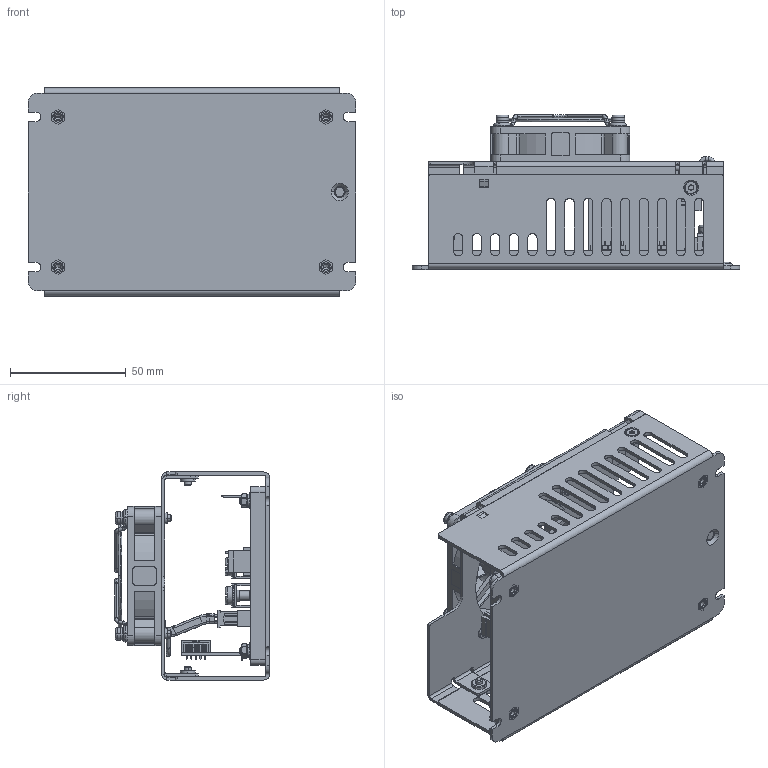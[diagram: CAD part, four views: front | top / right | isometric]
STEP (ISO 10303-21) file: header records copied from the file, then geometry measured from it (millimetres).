
FILE_DESCRIPTION (( 'STEP AP214' ), '1' );
FILE_NAME ('CUS-400M-xxVx-FXy.STEP', '2020-04-16T06:19:59', ( '' ), ( '' ), 'SwSTEP 2.0', 'SolidWorks 2019', '' );
FILE_SCHEMA (( 'AUTOMOTIVE_DESIGN' ));
Length unit declared in the file: millimetre
Products named in the file (40): 250296; 250237_28421; 12947; 283448; 200218; 250297; 22-04-1021; 220563SMA_SM Removed; 220563_Connectors Only; CUS-400M-xxVx-FXy; FLAT WASHERS_32087; SPLIT WASHERS_20035R; M3 PH TORX SEMS SCREW_20197R; 283717; M3 CLINCHNUT_23128; 250242 slot masking; 60mm FAN GRILL; 250236; 283455; 220563_No Holes; 23578; 283450_283455; 283450 SLEEVING_283455; FULL NUT_200499; 220665_Connectors Only; M4 X PH COMBI SEMS SCREW_200020; 200268; 220665_No Holes; 72880; 250223; M3 90蚓SK TORX SCREW_28393; 13386_WITH WIRES; 283447; 250294 chassis masking; 240204; 283450_Wires removed.; 220665SMA_No Surface Mount
Assembly tree (65 placements, depth 5):
  CUS-400M-xxVx-FXy
    220665_Connectors Only
      220665SMA_No Surface Mount
        220665_No Holes
      200218
      23578
      283717
        250223
        M4 X PH COMBI SEMS SCREW_200020
      283717
        250223
        M4 X PH COMBI SEMS SCREW_200020
      220563_Connectors Only
        220563SMA_SM Removed
          220563_No Holes
        12947
        283448
        283447
      200268
      22-04-1021
    240204
    250297
      250297
      250237_28421  x4
      250242 slot masking  x2
      250294 chassis masking  x2
    250236  x4
    FLAT WASHERS_32087  x4
    SPLIT WASHERS_20035R  x4
    FULL NUT_200499  x4
    M3 90蚓SK TORX SCREW_28393  x2
    283455
      250296
        250296
        M3 CLINCHNUT_23128  x2
      283450_283455
        283450_Wires removed.
        72880  x2
        283450 SLEEVING_283455
      13386_WITH WIRES
      60mm FAN GRILL
      M3 PH TORX SEMS SCREW_20197R  x4
      72880
Bounding box: 141.4 x 66.8 x 89.8 mm (x, y, z)
Volume: 101170.4 mm3; surface area: 143069.3 mm2
Topology: 69 solids, 69 shells, 5574 faces, 14427 edges, 9130 vertices
Faces by surface type: plane 3649, cylinder 1206, cone 290, torus 224, bspline 181, sphere 24
Entity records: 150909 total; most frequent: CARTESIAN_POINT 54212, ORIENTED_EDGE 17514, DIRECTION 16656, EDGE_CURVE 8757, VECTOR 5802, LINE 5802, VERTEX_POINT 5559, AXIS2_PLACEMENT_3D 5427
